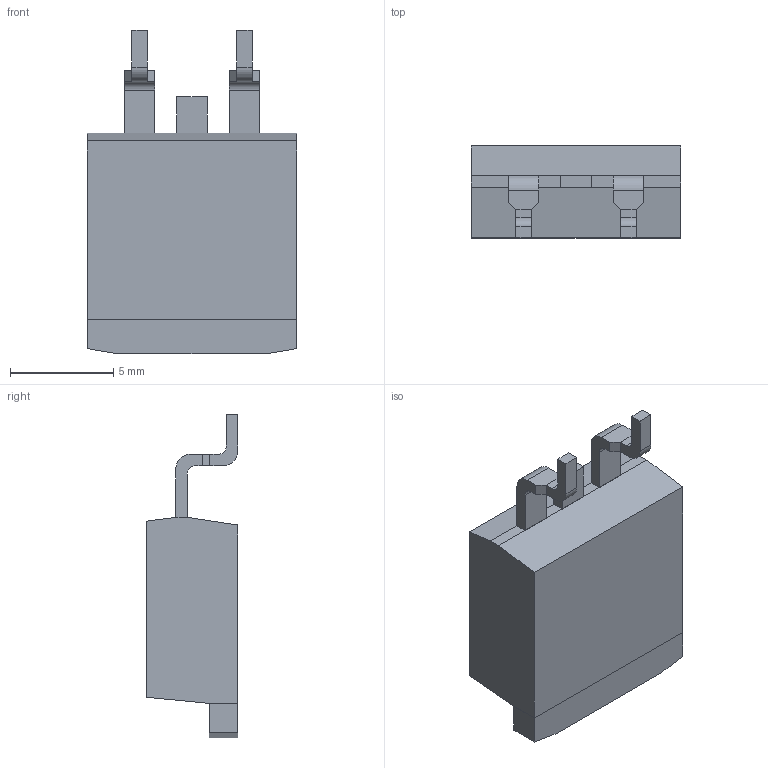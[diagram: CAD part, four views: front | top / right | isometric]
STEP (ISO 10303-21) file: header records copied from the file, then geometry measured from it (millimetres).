
FILE_DESCRIPTION (( 'STEP AP203' ), '1' );
FILE_NAME ('TO-263.STEP', '2019-12-12T07:24:43', ( 'NCKU-ECC' ), ( '' ), 'SwSTEP 2.0', 'SolidWorks 2019', '' );
FILE_SCHEMA (( 'CONFIG_CONTROL_DESIGN' ));
Length unit declared in the file: millimetre
Products named in the file (1): TO-263
Bounding box: 10.16 x 4.45 x 15.69 mm (x, y, z)
Volume: 430.4 mm3; surface area: 470 mm2
Topology: 7 solids, 7 shells, 67 faces, 159 edges, 106 vertices
Faces by surface type: plane 59, cylinder 8
Entity records: 1974 total; most frequent: CARTESIAN_POINT 333, ORIENTED_EDGE 318, DIRECTION 311, EDGE_CURVE 159, LINE 143, VECTOR 143, VERTEX_POINT 106, AXIS2_PLACEMENT_3D 84
